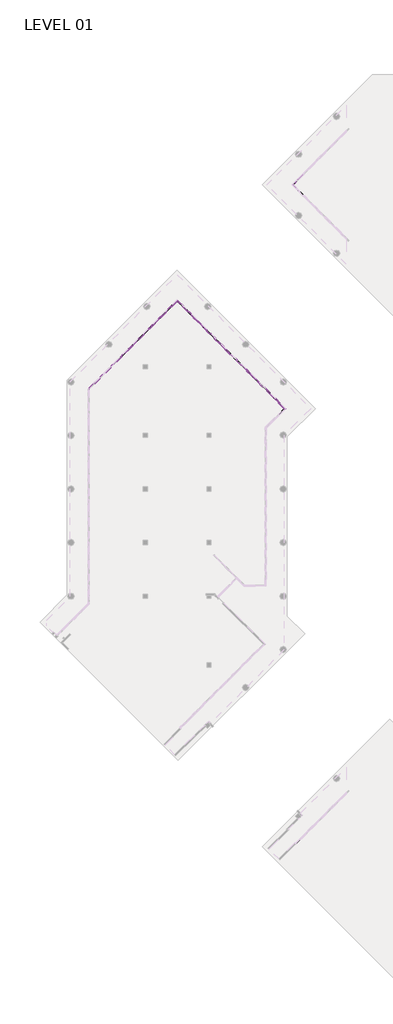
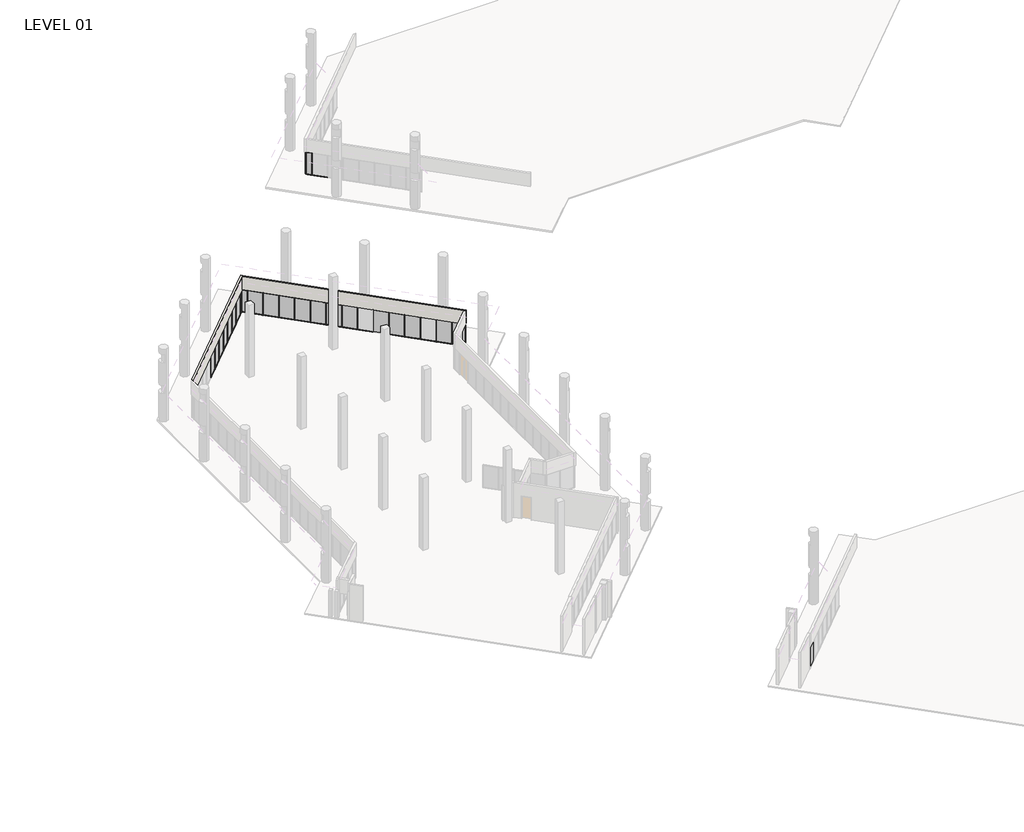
# One storey, part 5 of 24: 80 members, 25 plates, 2 walls.
"""IFC4 building model written with IfcOpenShell, lengths in millimetres."""

from ifc_helpers import new_model, si_unit, origin, place, context, project, spatial, faceted_brep, transform, mapped, element, save
from components import member_5247f267, member_79e7b9d8, member_b8d22739, member_e44af9ab, member_800970d4, member_1b18ecbc, member_57f2eb73, plate_46a4c48d, plate_4e8ae714, plate_d12b1ad5, plate_67294edd, plate_e0bd23ee, plate_474de82a, plate_87d7c655

model = new_model("IFC4")

# Units and contexts
model_context = context("Model", 3, world=origin())
ifc_project = project(units=[si_unit("LENGTHUNIT", "METRE", prefix="MILLI")], contexts=[model_context])

# Site, building, storey
site = spatial("IfcSite", under=ifc_project)
building = spatial("IfcBuilding", under=site)
storey = spatial("IfcBuildingStorey", under=building, Name="LEVEL 01", Elevation=0.0)

# Members
placement = place(None, origin())
member_shape = member_5247f267(model_context)
element("IfcMember", 1, ObjectType="Rectangular Mullion : 2\" x 4.5\" rectangular", at=placement, inside=storey, context=model_context, shape_type="MappedRepresentation", body=[
    mapped(member_shape, transform((-305.3287081, 104101.0755104, 0.0), x_axis=(0.0, 0.0, -1.0), y_axis=(-0.7071067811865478, -0.7071067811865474, 0.0), z_axis=(-0.7071067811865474, 0.7071067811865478, 0.0))),
])
element("IfcMember", 2, ObjectType="Rectangular Mullion : 2\" x 4.5\" rectangular", at=placement, inside=storey, context=model_context, shape_type="MappedRepresentation", body=[
    mapped(member_shape, transform((-305.5073808, 104982.5004268, 2590.8), x_axis=(0.0, 0.0, 1.0), y_axis=(-0.707106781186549, 0.7071067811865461, 0.0), z_axis=(-0.7071067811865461, -0.707106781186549, 0.0))),
])
member_2_shape = member_79e7b9d8(model_context)
element("IfcMember", 3, ObjectType="Rectangular Mullion : 2\" x 4.5\" rectangular", at=placement, inside=storey, context=model_context, shape_type="MappedRepresentation", body=[
    mapped(member_2_shape, transform((-710.2094781, 104577.7983294, 2590.8), x_axis=(0.0, 0.0, 1.0), y_axis=(-0.7071067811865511, 0.7071067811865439, 0.0), z_axis=(-0.7071067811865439, -0.7071067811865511, 0.0))),
])
element("IfcMember", 4, ObjectType="Rectangular Mullion : 2\" x 4.5\" rectangular", at=placement, inside=storey, context=model_context, shape_type="MappedRepresentation", body=[
    mapped(member_2_shape, transform((-341.4284052, 104946.5794023, 0.0), x_axis=(0.0, 0.0, -1.0), y_axis=(-0.7071067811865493, 0.7071067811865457, 0.0), z_axis=(0.7071067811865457, 0.7071067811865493, 0.0))),
])
member_3_shape = member_b8d22739(model_context)
element("IfcMember", 5, ObjectType="Rectangular Mullion : 2\" x 4.5\" rectangular", at=placement, inside=storey, context=model_context, shape_type="MappedRepresentation", body=[
    mapped(member_3_shape, transform((-710.2094781, 104505.9562804, 0.0), x_axis=(0.0, 0.0, -1.0), y_axis=(-0.7071067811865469, -0.7071067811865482, 0.0), z_axis=(-0.7071067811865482, 0.7071067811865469, 0.0))),
])
element("IfcMember", 6, ObjectType="Rectangular Mullion : 2\" x 4.5\" rectangular", at=placement, inside=storey, context=model_context, shape_type="MappedRepresentation", body=[
    mapped(member_3_shape, transform((-341.2497326, 104136.9965349, 2590.8), x_axis=(0.0, 0.0, 1.0), y_axis=(-0.7071067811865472, -0.7071067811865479, 0.0), z_axis=(0.7071067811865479, -0.7071067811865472, 0.0))),
])
member_4_shape = member_e44af9ab(model_context)
element("IfcMember", 7, ObjectType="Rectangular Mullion : 2\" x 4.5\" rectangular", at=placement, inside=storey, context=model_context, shape_type="MappedRepresentation", body=[
    mapped(member_4_shape, transform((-323.2892204, 104119.0360227, 0.0), x_axis=(0.7071067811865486, -0.7071067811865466, 0.0), y_axis=(-0.7071067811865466, -0.7071067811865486, 0.0), z_axis=(0.0, 0.0, -1.0))),
])
element("IfcMember", 8, ObjectType="Rectangular Mullion : 2\" x 4.5\" rectangular", at=placement, inside=storey, context=model_context, shape_type="MappedRepresentation", body=[
    mapped(member_4_shape, transform((-323.467893, 104964.5399145, 0.0), x_axis=(-0.7071067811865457, -0.7071067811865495, 0.0), y_axis=(-0.7071067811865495, 0.7071067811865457, 0.0), z_axis=(0.0, 0.0, -1.0))),
])
member_5_shape = member_800970d4(model_context)
element("IfcMember", 9, ObjectType="Rectangular Mullion : 2\" x 4.5\" rectangular", at=placement, inside=storey, context=model_context, shape_type="MappedRepresentation", body=[
    mapped(member_5_shape, transform((-746.1305026, 104541.8773049, 0.0), x_axis=(-0.7071067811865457, -0.7071067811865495, 0.0), y_axis=(-0.7071067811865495, 0.7071067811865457, 0.0), z_axis=(0.0, 0.0, -1.0))),
])
element("IfcMember", 10, ObjectType="Rectangular Mullion : 2\" x 4.5\" rectangular", at=placement, inside=storey, context=model_context, shape_type="MappedRepresentation", body=[
    mapped(member_5_shape, transform((-746.1305026, 104541.8773049, 2590.8), x_axis=(-0.7071067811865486, 0.7071067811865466, 0.0), y_axis=(-0.7071067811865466, -0.7071067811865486, 0.0), z_axis=(0.0, 0.0, 1.0))),
])
element("IfcMember", 11, ObjectType="Rectangular Mullion : 2\" x 4.5\" rectangular", at=placement, inside=storey, context=model_context, shape_type="MappedRepresentation", body=[
    mapped(member_shape, transform((-25181.9979799, 80106.0098276, 2590.8), x_axis=(0.0, 0.0, 1.0), y_axis=(0.7071067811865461, -0.707106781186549, 0.0), z_axis=(0.707106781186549, 0.7071067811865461, 0.0))),
])
element("IfcMember", 12, ObjectType="Rectangular Mullion : 2\" x 4.5\" rectangular", at=placement, inside=storey, context=model_context, shape_type="MappedRepresentation", body=[
    mapped(member_shape, transform((-24104.3672454, 81183.6405621, 2590.8), x_axis=(0.0, 0.0, 1.0), y_axis=(0.7071067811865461, -0.707106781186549, 0.0), z_axis=(0.707106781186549, 0.7071067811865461, 0.0))),
])
element("IfcMember", 13, ObjectType="Rectangular Mullion : 2\" x 4.5\" rectangular", at=placement, inside=storey, context=model_context, shape_type="MappedRepresentation", body=[
    mapped(member_shape, transform((-23026.7365109, 82261.2712966, 2590.8), x_axis=(0.0, 0.0, 1.0), y_axis=(0.7071067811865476, -0.7071067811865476, 0.0), z_axis=(0.7071067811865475, 0.7071067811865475, 0.0))),
])
element("IfcMember", 14, ObjectType="Rectangular Mullion : 2\" x 4.5\" rectangular", at=placement, inside=storey, context=model_context, shape_type="MappedRepresentation", body=[
    mapped(member_shape, transform((-20871.4750418, 84416.5327657, 2590.8), x_axis=(0.0, 0.0, 1.0), y_axis=(0.7071067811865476, -0.7071067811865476, 0.0), z_axis=(0.7071067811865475, 0.7071067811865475, 0.0))),
])
element("IfcMember", 15, ObjectType="Rectangular Mullion : 2\" x 4.5\" rectangular", at=placement, inside=storey, context=model_context, shape_type="MappedRepresentation", body=[
    mapped(member_shape, transform((-19793.8443073, 85494.1635002, 2590.8), x_axis=(0.0, 0.0, 1.0), y_axis=(0.7071067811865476, -0.7071067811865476, 0.0), z_axis=(0.7071067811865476, 0.7071067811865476, 0.0))),
])
element("IfcMember", 16, ObjectType="Rectangular Mullion : 2\" x 4.5\" rectangular", at=placement, inside=storey, context=model_context, shape_type="MappedRepresentation", body=[
    mapped(member_shape, transform((-15715.4482119, 86607.5365866, 2590.8), x_axis=(0.0, 0.0, 1.0), y_axis=(-0.7071067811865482, -0.7071067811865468, 0.0), z_axis=(0.7071067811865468, -0.7071067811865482, 0.0))),
])
element("IfcMember", 17, ObjectType="Rectangular Mullion : 2\" x 4.5\" rectangular", at=placement, inside=storey, context=model_context, shape_type="MappedRepresentation", body=[
    mapped(member_shape, transform((-13560.1867428, 84452.2751175, 2590.8), x_axis=(0.0, 0.0, 1.0), y_axis=(-0.7071067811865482, -0.7071067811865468, 0.0), z_axis=(0.7071067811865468, -0.7071067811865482, 0.0))),
])
element("IfcMember", 18, ObjectType="Rectangular Mullion : 2\" x 4.5\" rectangular", at=placement, inside=storey, context=model_context, shape_type="MappedRepresentation", body=[
    mapped(member_shape, transform((-11404.9252738, 82297.0136485, 2590.8), x_axis=(0.0, 0.0, 1.0), y_axis=(-0.7071067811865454, -0.7071067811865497, 0.0), z_axis=(0.7071067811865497, -0.7071067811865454, 0.0))),
])
element("IfcMember", 19, ObjectType="Rectangular Mullion : 2\" x 4.5\" rectangular", at=placement, inside=storey, context=model_context, shape_type="MappedRepresentation", body=[
    mapped(member_shape, transform((-7094.7596809, 77986.8480556, 2590.8), x_axis=(0.0, 0.0, 1.0), y_axis=(-0.7071067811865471, -0.7071067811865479, 0.0), z_axis=(0.7071067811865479, -0.7071067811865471, 0.0))),
])
element("IfcMember", 20, ObjectType="Rectangular Mullion : 2\" x 4.5\" rectangular", at=placement, inside=storey, context=model_context, shape_type="MappedRepresentation", body=[
    mapped(member_shape, transform((-3861.8674773, 74753.9558521, 2590.8), x_axis=(0.0, 0.0, 1.0), y_axis=(-0.7071067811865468, -0.7071067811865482, 0.0), z_axis=(0.7071067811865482, -0.7071067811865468, 0.0))),
])
element("IfcMember", 21, ObjectType="Rectangular Mullion : 2\" x 4.5\" rectangular", at=placement, inside=storey, context=model_context, shape_type="MappedRepresentation", body=[
    mapped(member_shape, transform((-2784.2367428, 73676.3251175, 2590.8), x_axis=(0.0, 0.0, 1.0), y_axis=(-0.7071067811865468, -0.7071067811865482, 0.0), z_axis=(0.7071067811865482, -0.7071067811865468, 0.0))),
])
element("IfcMember", 22, ObjectType="Rectangular Mullion : 2\" x 4.5\" rectangular", at=placement, inside=storey, context=model_context, shape_type="MappedRepresentation", body=[
    mapped(member_shape, transform((-18716.2135728, 86571.7942348, 2590.8), x_axis=(0.0, 0.0, 1.0), y_axis=(0.7071067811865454, -0.7071067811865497, 0.0), z_axis=(0.7071067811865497, 0.7071067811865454, 0.0))),
])
element("IfcMember", 23, ObjectType="Rectangular Mullion : 2\" x 4.5\" rectangular", at=placement, inside=storey, context=model_context, shape_type="MappedRepresentation", body=[
    mapped(member_shape, transform((-21949.1057764, 83338.9020312, 2590.8), x_axis=(0.0, 0.0, 1.0), y_axis=(0.7071067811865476, -0.7071067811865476, 0.0), z_axis=(0.7071067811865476, 0.7071067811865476, 0.0))),
])
element("IfcMember", 24, ObjectType="Rectangular Mullion : 2\" x 4.5\" rectangular", at=placement, inside=storey, context=model_context, shape_type="MappedRepresentation", body=[
    mapped(member_shape, transform((-17638.5828382, 87649.4249693, 2590.8), x_axis=(0.0, 0.0, 1.0), y_axis=(0.7071067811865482, -0.7071067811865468, 0.0), z_axis=(0.7071067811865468, 0.7071067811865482, 0.0))),
])
element("IfcMember", 25, ObjectType="Rectangular Mullion : 2\" x 4.5\" rectangular", at=placement, inside=storey, context=model_context, shape_type="MappedRepresentation", body=[
    mapped(member_shape, transform((-14637.8174773, 85529.9058521, 2590.8), x_axis=(0.0, 0.0, 1.0), y_axis=(-0.7071067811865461, -0.707106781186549, 0.0), z_axis=(0.707106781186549, -0.7071067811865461, 0.0))),
])
element("IfcMember", 26, ObjectType="Rectangular Mullion : 2\" x 4.5\" rectangular", at=placement, inside=storey, context=model_context, shape_type="MappedRepresentation", body=[
    mapped(member_shape, transform((-12482.5560083, 83374.644383, 2590.8), x_axis=(0.0, 0.0, 1.0), y_axis=(-0.7071067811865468, -0.7071067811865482, 0.0), z_axis=(0.7071067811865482, -0.7071067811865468, 0.0))),
])
element("IfcMember", 27, ObjectType="Rectangular Mullion : 2\" x 4.5\" rectangular", at=placement, inside=storey, context=model_context, shape_type="MappedRepresentation", body=[
    mapped(member_shape, transform((-10327.2945392, 81219.382914, 2590.8), x_axis=(0.0, 0.0, 1.0), y_axis=(-0.7071067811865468, -0.7071067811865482, 0.0), z_axis=(0.7071067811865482, -0.7071067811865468, 0.0))),
])
element("IfcMember", 28, ObjectType="Rectangular Mullion : 2\" x 4.5\" rectangular", at=placement, inside=storey, context=model_context, shape_type="MappedRepresentation", body=[
    mapped(member_shape, transform((-6017.1289464, 76909.2173211, 2590.8), x_axis=(0.0, 0.0, 1.0), y_axis=(-0.7071067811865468, -0.7071067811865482, 0.0), z_axis=(0.7071067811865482, -0.7071067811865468, 0.0))),
])
element("IfcMember", 29, ObjectType="Rectangular Mullion : 2\" x 4.5\" rectangular", at=placement, inside=storey, context=model_context, shape_type="MappedRepresentation", body=[
    mapped(member_shape, transform((-25146.0769555, 80141.9308521, 0.0), x_axis=(0.0, 0.0, -1.0), y_axis=(0.7071067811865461, -0.707106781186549, 0.0), z_axis=(-0.707106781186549, -0.7071067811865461, 0.0))),
])
element("IfcMember", 30, ObjectType="Rectangular Mullion : 2\" x 4.5\" rectangular", at=placement, inside=storey, context=model_context, shape_type="MappedRepresentation", body=[
    mapped(member_shape, transform((-24068.4462209, 81219.5615866, 0.0), x_axis=(0.0, 0.0, -1.0), y_axis=(0.707106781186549, -0.7071067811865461, 0.0), z_axis=(-0.7071067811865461, -0.707106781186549, 0.0))),
])
element("IfcMember", 31, ObjectType="Rectangular Mullion : 2\" x 4.5\" rectangular", at=placement, inside=storey, context=model_context, shape_type="MappedRepresentation", body=[
    mapped(member_shape, transform((-22990.8154864, 82297.1923211, 0.0), x_axis=(0.0, 0.0, -1.0), y_axis=(0.7071067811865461, -0.707106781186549, 0.0), z_axis=(-0.707106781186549, -0.7071067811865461, 0.0))),
])
element("IfcMember", 32, ObjectType="Rectangular Mullion : 2\" x 4.5\" rectangular", at=placement, inside=storey, context=model_context, shape_type="MappedRepresentation", body=[
    mapped(member_shape, transform((-20835.5540173, 84452.4537902, 0.0), x_axis=(0.0, 0.0, -1.0), y_axis=(0.7071067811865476, -0.7071067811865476, 0.0), z_axis=(-0.7071067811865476, -0.7071067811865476, 0.0))),
])
element("IfcMember", 33, ObjectType="Rectangular Mullion : 2\" x 4.5\" rectangular", at=placement, inside=storey, context=model_context, shape_type="MappedRepresentation", body=[
    mapped(member_shape, transform((-19757.9232828, 85530.0845247, 0.0), x_axis=(0.0, 0.0, -1.0), y_axis=(0.7071067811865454, -0.7071067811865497, 0.0), z_axis=(-0.7071067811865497, -0.7071067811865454, 0.0))),
])
element("IfcMember", 34, ObjectType="Rectangular Mullion : 2\" x 4.5\" rectangular", at=placement, inside=storey, context=model_context, shape_type="MappedRepresentation", body=[
    mapped(member_shape, transform((-15679.5271874, 86571.6155621, 0.0), x_axis=(0.0, 0.0, -1.0), y_axis=(-0.7071067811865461, -0.707106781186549, 0.0), z_axis=(-0.707106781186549, 0.7071067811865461, 0.0))),
])
element("IfcMember", 35, ObjectType="Rectangular Mullion : 2\" x 4.5\" rectangular", at=placement, inside=storey, context=model_context, shape_type="MappedRepresentation", body=[
    mapped(member_shape, transform((-13524.2657183, 84416.3540931, 0.0), x_axis=(0.0, 0.0, -1.0), y_axis=(-0.7071067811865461, -0.707106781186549, 0.0), z_axis=(-0.707106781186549, 0.7071067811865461, 0.0))),
])
element("IfcMember", 36, ObjectType="Rectangular Mullion : 2\" x 4.5\" rectangular", at=placement, inside=storey, context=model_context, shape_type="MappedRepresentation", body=[
    mapped(member_shape, transform((-11369.0042493, 82261.092624, 0.0), x_axis=(0.0, 0.0, -1.0), y_axis=(-0.7071067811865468, -0.7071067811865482, 0.0), z_axis=(-0.7071067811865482, 0.7071067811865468, 0.0))),
])
element("IfcMember", 37, ObjectType="Rectangular Mullion : 2\" x 4.5\" rectangular", at=placement, inside=storey, context=model_context, shape_type="MappedRepresentation", body=[
    mapped(member_shape, transform((-9214.1001255, 80106.1885002, 0.0), x_axis=(0.0, 0.0, -1.0), y_axis=(-0.7071067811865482, -0.7071067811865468, 0.0), z_axis=(-0.7071067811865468, 0.7071067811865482, 0.0))),
])
element("IfcMember", 38, ObjectType="Rectangular Mullion : 2\" x 4.5\" rectangular", at=placement, inside=storey, context=model_context, shape_type="MappedRepresentation", body=[
    mapped(member_shape, transform((-7058.8386564, 77950.9270312, 0.0), x_axis=(0.0, 0.0, -1.0), y_axis=(-0.7071067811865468, -0.7071067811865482, 0.0), z_axis=(-0.7071067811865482, 0.7071067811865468, 0.0))),
])
element("IfcMember", 39, ObjectType="Rectangular Mullion : 2\" x 4.5\" rectangular", at=placement, inside=storey, context=model_context, shape_type="MappedRepresentation", body=[
    mapped(member_shape, transform((-4903.5771874, 75795.6655621, 0.0), x_axis=(0.0, 0.0, -1.0), y_axis=(-0.7071067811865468, -0.7071067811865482, 0.0), z_axis=(-0.7071067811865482, 0.7071067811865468, 0.0))),
])
element("IfcMember", 40, ObjectType="Rectangular Mullion : 2\" x 4.5\" rectangular", at=placement, inside=storey, context=model_context, shape_type="MappedRepresentation", body=[
    mapped(member_shape, transform((-3825.9464529, 74718.0348276, 0.0), x_axis=(0.0, 0.0, -1.0), y_axis=(-0.7071067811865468, -0.7071067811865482, 0.0), z_axis=(-0.7071067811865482, 0.7071067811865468, 0.0))),
])
element("IfcMember", 41, ObjectType="Rectangular Mullion : 2\" x 4.5\" rectangular", at=placement, inside=storey, context=model_context, shape_type="MappedRepresentation", body=[
    mapped(member_shape, transform((-18680.2925483, 86607.7152592, 0.0), x_axis=(0.0, 0.0, -1.0), y_axis=(0.7071067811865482, -0.7071067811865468, 0.0), z_axis=(-0.7071067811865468, -0.7071067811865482, 0.0))),
])
element("IfcMember", 42, ObjectType="Rectangular Mullion : 2\" x 4.5\" rectangular", at=placement, inside=storey, context=model_context, shape_type="MappedRepresentation", body=[
    mapped(member_shape, transform((-16757.1579219, 87649.2462966, 0.0), x_axis=(0.0, 0.0, -1.0), y_axis=(-0.7071067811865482, -0.7071067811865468, 0.0), z_axis=(-0.7071067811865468, 0.7071067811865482, 0.0))),
])
element("IfcMember", 43, ObjectType="Rectangular Mullion : 2\" x 4.5\" rectangular", at=placement, inside=storey, context=model_context, shape_type="MappedRepresentation", body=[
    mapped(member_shape, transform((-21913.1847519, 83374.8230556, 0.0), x_axis=(0.0, 0.0, -1.0), y_axis=(0.7071067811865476, -0.7071067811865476, 0.0), z_axis=(-0.7071067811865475, -0.7071067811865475, 0.0))),
])
element("IfcMember", 44, ObjectType="Rectangular Mullion : 2\" x 4.5\" rectangular", at=placement, inside=storey, context=model_context, shape_type="MappedRepresentation", body=[
    mapped(member_shape, transform((-14601.8964529, 85493.9848276, 0.0), x_axis=(0.0, 0.0, -1.0), y_axis=(-0.7071067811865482, -0.7071067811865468, 0.0), z_axis=(-0.7071067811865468, 0.7071067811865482, 0.0))),
])
element("IfcMember", 45, ObjectType="Rectangular Mullion : 2\" x 4.5\" rectangular", at=placement, inside=storey, context=model_context, shape_type="MappedRepresentation", body=[
    mapped(member_shape, transform((-12446.6349838, 83338.7233585, 0.0), x_axis=(0.0, 0.0, -1.0), y_axis=(-0.7071067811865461, -0.707106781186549, 0.0), z_axis=(-0.707106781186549, 0.7071067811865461, 0.0))),
])
element("IfcMember", 46, ObjectType="Rectangular Mullion : 2\" x 4.5\" rectangular", at=placement, inside=storey, context=model_context, shape_type="MappedRepresentation", body=[
    mapped(member_shape, transform((-5981.2079219, 76873.2962966, 0.0), x_axis=(0.0, 0.0, -1.0), y_axis=(-0.7071067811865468, -0.7071067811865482, 0.0), z_axis=(-0.7071067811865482, 0.7071067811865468, 0.0))),
])
element("IfcMember", 47, ObjectType="Rectangular Mullion : 2\" x 4.5\" rectangular", at=placement, inside=storey, context=model_context, shape_type="MappedRepresentation", body=[
    mapped(member_4_shape, transform((-25164.0374677, 80123.9703398, 0.0), x_axis=(0.7071067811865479, 0.7071067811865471, 0.0), y_axis=(0.7071067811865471, -0.7071067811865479, 0.0), z_axis=(0.0, 0.0, -1.0))),
])
element("IfcMember", 48, ObjectType="Rectangular Mullion : 2\" x 4.5\" rectangular", at=placement, inside=storey, context=model_context, shape_type="MappedRepresentation", body=[
    mapped(member_4_shape, transform((-24086.4067332, 81201.6010744, 0.0), x_axis=(0.7071067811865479, 0.7071067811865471, 0.0), y_axis=(0.7071067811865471, -0.7071067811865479, 0.0), z_axis=(0.0, 0.0, -1.0))),
])
element("IfcMember", 49, ObjectType="Rectangular Mullion : 2\" x 4.5\" rectangular", at=placement, inside=storey, context=model_context, shape_type="MappedRepresentation", body=[
    mapped(member_4_shape, transform((-23008.7759986, 82279.2318089, 0.0), x_axis=(0.7071067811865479, 0.7071067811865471, 0.0), y_axis=(0.7071067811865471, -0.7071067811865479, 0.0), z_axis=(0.0, 0.0, -1.0))),
])
element("IfcMember", 50, ObjectType="Rectangular Mullion : 2\" x 4.5\" rectangular", at=placement, inside=storey, context=model_context, shape_type="MappedRepresentation", body=[
    mapped(member_4_shape, transform((-20853.5145296, 84434.4932779, 0.0), x_axis=(0.7071067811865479, 0.7071067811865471, 0.0), y_axis=(0.7071067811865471, -0.7071067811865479, 0.0), z_axis=(0.0, 0.0, -1.0))),
])
element("IfcMember", 51, ObjectType="Rectangular Mullion : 2\" x 4.5\" rectangular", at=placement, inside=storey, context=model_context, shape_type="MappedRepresentation", body=[
    mapped(member_4_shape, transform((-19775.8837951, 85512.1240125, 0.0), x_axis=(0.7071067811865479, 0.7071067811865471, 0.0), y_axis=(0.7071067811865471, -0.7071067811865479, 0.0), z_axis=(0.0, 0.0, -1.0))),
])
element("IfcMember", 52, ObjectType="Rectangular Mullion : 2\" x 4.5\" rectangular", at=placement, inside=storey, context=model_context, shape_type="MappedRepresentation", body=[
    mapped(member_4_shape, transform((-15697.4876996, 86589.5760744, 0.0), x_axis=(0.707106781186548, -0.707106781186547, 0.0), y_axis=(-0.707106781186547, -0.707106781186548, 0.0), z_axis=(0.0, 0.0, -1.0))),
])
element("IfcMember", 53, ObjectType="Rectangular Mullion : 2\" x 4.5\" rectangular", at=placement, inside=storey, context=model_context, shape_type="MappedRepresentation", body=[
    mapped(member_4_shape, transform((-13542.2262306, 84434.3146053, 0.0), x_axis=(0.707106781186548, -0.707106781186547, 0.0), y_axis=(-0.707106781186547, -0.707106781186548, 0.0), z_axis=(0.0, 0.0, -1.0))),
])
element("IfcMember", 54, ObjectType="Rectangular Mullion : 2\" x 4.5\" rectangular", at=placement, inside=storey, context=model_context, shape_type="MappedRepresentation", body=[
    mapped(member_4_shape, transform((-11386.9647615, 82279.0531362, 0.0), x_axis=(0.707106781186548, -0.707106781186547, 0.0), y_axis=(-0.707106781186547, -0.707106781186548, 0.0), z_axis=(0.0, 0.0, -1.0))),
])
element("IfcMember", 55, ObjectType="Rectangular Mullion : 2\" x 4.5\" rectangular", at=placement, inside=storey, context=model_context, shape_type="MappedRepresentation", body=[
    mapped(member_4_shape, transform((-9232.0606377, 80124.1490125, 0.0), x_axis=(0.707106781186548, -0.707106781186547, 0.0), y_axis=(-0.707106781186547, -0.707106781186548, 0.0), z_axis=(0.0, 0.0, -1.0))),
])
element("IfcMember", 56, ObjectType="Rectangular Mullion : 2\" x 4.5\" rectangular", at=placement, inside=storey, context=model_context, shape_type="MappedRepresentation", body=[
    mapped(member_4_shape, transform((-7076.7991687, 77968.8875434, 0.0), x_axis=(0.707106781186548, -0.707106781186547, 0.0), y_axis=(-0.707106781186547, -0.707106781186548, 0.0), z_axis=(0.0, 0.0, -1.0))),
])
element("IfcMember", 57, ObjectType="Rectangular Mullion : 2\" x 4.5\" rectangular", at=placement, inside=storey, context=model_context, shape_type="MappedRepresentation", body=[
    mapped(member_4_shape, transform((-4921.5376996, 75813.6260744, 0.0), x_axis=(0.707106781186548, -0.707106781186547, 0.0), y_axis=(-0.707106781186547, -0.707106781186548, 0.0), z_axis=(0.0, 0.0, -1.0))),
])
element("IfcMember", 58, ObjectType="Rectangular Mullion : 2\" x 4.5\" rectangular", at=placement, inside=storey, context=model_context, shape_type="MappedRepresentation", body=[
    mapped(member_4_shape, transform((-3843.9069651, 74735.9953398, 0.0), x_axis=(0.707106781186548, -0.707106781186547, 0.0), y_axis=(-0.707106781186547, -0.707106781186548, 0.0), z_axis=(0.0, 0.0, -1.0))),
])
element("IfcMember", 59, ObjectType="Rectangular Mullion : 2\" x 4.5\" rectangular", at=placement, inside=storey, context=model_context, shape_type="MappedRepresentation", body=[
    mapped(member_4_shape, transform((-2766.2762306, 73658.3646053, 0.0), x_axis=(0.707106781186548, -0.707106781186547, 0.0), y_axis=(-0.707106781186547, -0.707106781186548, 0.0), z_axis=(0.0, 0.0, -1.0))),
])
element("IfcMember", 60, ObjectType="Rectangular Mullion : 2\" x 4.5\" rectangular", at=placement, inside=storey, context=model_context, shape_type="MappedRepresentation", body=[
    mapped(member_4_shape, transform((-18698.2530605, 86589.754747, 0.0), x_axis=(0.7071067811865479, 0.7071067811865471, 0.0), y_axis=(0.7071067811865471, -0.7071067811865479, 0.0), z_axis=(0.0, 0.0, -1.0))),
])
element("IfcMember", 61, ObjectType="Rectangular Mullion : 2\" x 4.5\" rectangular", at=placement, inside=storey, context=model_context, shape_type="MappedRepresentation", body=[
    mapped(member_4_shape, transform((-16775.1184342, 87667.2068089, 0.0), x_axis=(0.707106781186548, -0.707106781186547, 0.0), y_axis=(-0.707106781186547, -0.707106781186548, 0.0), z_axis=(0.0, 0.0, -1.0))),
])
element("IfcMember", 62, ObjectType="Rectangular Mullion : 2\" x 4.5\" rectangular", at=placement, inside=storey, context=model_context, shape_type="MappedRepresentation", body=[
    mapped(member_4_shape, transform((-21931.1452641, 83356.8625434, 0.0), x_axis=(0.7071067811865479, 0.7071067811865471, 0.0), y_axis=(0.7071067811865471, -0.7071067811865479, 0.0), z_axis=(0.0, 0.0, -1.0))),
])
element("IfcMember", 63, ObjectType="Rectangular Mullion : 2\" x 4.5\" rectangular", at=placement, inside=storey, context=model_context, shape_type="MappedRepresentation", body=[
    mapped(member_4_shape, transform((-17620.622326, 87667.3854815, 0.0), x_axis=(0.7071067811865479, 0.7071067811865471, 0.0), y_axis=(0.7071067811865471, -0.7071067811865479, 0.0), z_axis=(0.0, 0.0, -1.0))),
])
element("IfcMember", 64, ObjectType="Rectangular Mullion : 2\" x 4.5\" rectangular", at=placement, inside=storey, context=model_context, shape_type="MappedRepresentation", body=[
    mapped(member_4_shape, transform((-14619.8569651, 85511.9453398, 0.0), x_axis=(0.707106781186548, -0.707106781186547, 0.0), y_axis=(-0.707106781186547, -0.707106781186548, 0.0), z_axis=(0.0, 0.0, -1.0))),
])
element("IfcMember", 65, ObjectType="Rectangular Mullion : 2\" x 4.5\" rectangular", at=placement, inside=storey, context=model_context, shape_type="MappedRepresentation", body=[
    mapped(member_4_shape, transform((-12464.595496, 83356.6838708, 0.0), x_axis=(0.707106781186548, -0.707106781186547, 0.0), y_axis=(-0.707106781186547, -0.707106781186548, 0.0), z_axis=(0.0, 0.0, -1.0))),
])
element("IfcMember", 66, ObjectType="Rectangular Mullion : 2\" x 4.5\" rectangular", at=placement, inside=storey, context=model_context, shape_type="MappedRepresentation", body=[
    mapped(member_4_shape, transform((-10309.334027, 81201.4224017, 0.0), x_axis=(0.707106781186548, -0.707106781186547, 0.0), y_axis=(-0.707106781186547, -0.707106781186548, 0.0), z_axis=(0.0, 0.0, -1.0))),
])
element("IfcMember", 67, ObjectType="Rectangular Mullion : 2\" x 4.5\" rectangular", at=placement, inside=storey, context=model_context, shape_type="MappedRepresentation", body=[
    mapped(member_4_shape, transform((-5999.1684342, 76891.2568089, 0.0), x_axis=(0.707106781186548, -0.707106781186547, 0.0), y_axis=(-0.707106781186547, -0.707106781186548, 0.0), z_axis=(0.0, 0.0, -1.0))),
])
element("IfcMember", 68, ObjectType="Rectangular Mullion : 2\" x 4.5\" rectangular", at=placement, inside=storey, context=model_context, shape_type="MappedRepresentation", body=[
    mapped(member_5_shape, transform((-17197.9597164, 88090.0480911, 0.0), x_axis=(0.7071067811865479, 0.7071067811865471, 0.0), y_axis=(0.7071067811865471, -0.7071067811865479, 0.0), z_axis=(0.0, 0.0, -1.0))),
])
element("IfcMember", 69, ObjectType="Rectangular Mullion : 2\" x 4.5\" rectangular", at=placement, inside=storey, context=model_context, shape_type="MappedRepresentation", body=[
    mapped(member_5_shape, transform((-1865.8792138, 72757.9675885, 0.0), x_axis=(0.707106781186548, -0.707106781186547, 0.0), y_axis=(-0.707106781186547, -0.707106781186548, 0.0), z_axis=(0.0, 0.0, -1.0))),
])
element("IfcMember", 70, ObjectType="Rectangular Mullion : 2\" x 4.5\" rectangular", at=placement, inside=storey, context=model_context, shape_type="MappedRepresentation", body=[
    mapped(member_5_shape, transform((-17197.9597164, 88090.0480911, 2590.8), x_axis=(-0.707106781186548, 0.707106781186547, 0.0), y_axis=(-0.707106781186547, -0.707106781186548, 0.0), z_axis=(0.0, 0.0, 1.0))),
])
element("IfcMember", 71, ObjectType="Rectangular Mullion : 2\" x 4.5\" rectangular", at=placement, inside=storey, context=model_context, shape_type="MappedRepresentation", body=[
    mapped(member_5_shape, transform((-1865.8792138, 72757.9675885, 2590.8), x_axis=(0.7071067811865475, 0.7071067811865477, 0.0), y_axis=(-0.7071067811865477, 0.7071067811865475, 0.0), z_axis=(0.0, 0.0, 1.0))),
])
element("IfcMember", 72, ObjectType="Rectangular Mullion : 2\" x 4.5\" rectangular", at=placement, inside=storey, context=model_context, shape_type="MappedRepresentation", body=[
    mapped(member_2_shape, transform((-17233.8807409, 88054.1270666, 2590.8), x_axis=(0.0, 0.0, 1.0), y_axis=(0.7071067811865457, -0.7071067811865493, 0.0), z_axis=(0.7071067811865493, 0.7071067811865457, 0.0))),
])
element("IfcMember", 73, ObjectType="Rectangular Mullion : 2\" x 4.5\" rectangular", at=placement, inside=storey, context=model_context, shape_type="MappedRepresentation", body=[
    mapped(member_2_shape, transform((-17602.6618138, 87685.3459938, 0.0), x_axis=(0.0, 0.0, -1.0), y_axis=(0.7071067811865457, -0.7071067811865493, 0.0), z_axis=(-0.7071067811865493, -0.7071067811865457, 0.0))),
])
member_6_shape = member_1b18ecbc(model_context)
element("IfcMember", 74, ObjectType="Rectangular Mullion : 2\" x 4.5\" rectangular", at=placement, inside=storey, context=model_context, shape_type="MappedRepresentation", body=[
    mapped(member_6_shape, transform((-1901.8002383, 72793.888613, 2590.8), x_axis=(0.0, 0.0, 1.0), y_axis=(-0.7071067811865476, -0.7071067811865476, 0.0), z_axis=(0.7071067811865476, -0.7071067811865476, 0.0))),
])
element("IfcMember", 75, ObjectType="Rectangular Mullion : 2\" x 4.5\" rectangular", at=placement, inside=storey, context=model_context, shape_type="MappedRepresentation", body=[
    mapped(member_3_shape, transform((-17162.0386919, 88054.1270666, 0.0), x_axis=(0.0, 0.0, -1.0), y_axis=(-0.7071067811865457, -0.7071067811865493, 0.0), z_axis=(-0.7071067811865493, 0.7071067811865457, 0.0))),
])
element("IfcMember", 76, ObjectType="Rectangular Mullion : 2\" x 4.5\" rectangular", at=placement, inside=storey, context=model_context, shape_type="MappedRepresentation", body=[
    mapped(member_6_shape, transform((-1901.8002383, 72722.046564, 0.0), x_axis=(0.0, 0.0, -1.0), y_axis=(-0.7071067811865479, 0.7071067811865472, 0.0), z_axis=(0.7071067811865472, 0.7071067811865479, 0.0))),
])
element("IfcMember", 77, ObjectType="Rectangular Mullion : 2\" x 4.5\" rectangular", at=placement, inside=storey, context=model_context, shape_type="MappedRepresentation", body=[
    mapped(member_6_shape, transform((-2748.3157183, 73640.4040931, 0.0), x_axis=(0.0, 0.0, -1.0), y_axis=(-0.7071067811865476, -0.7071067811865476, 0.0), z_axis=(-0.7071067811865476, 0.7071067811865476, 0.0))),
])
element("IfcMember", 78, ObjectType="Rectangular Mullion : 2\" x 4.5\" rectangular", at=placement, inside=storey, context=model_context, shape_type="MappedRepresentation", body=[
    mapped(member_3_shape, transform((-16793.0789464, 87685.1673211, 2590.8), x_axis=(0.0, 0.0, 1.0), y_axis=(-0.7071067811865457, -0.7071067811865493, 0.0), z_axis=(0.7071067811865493, -0.7071067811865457, 0.0))),
])
member_7_shape = member_57f2eb73(model_context)
element("IfcMember", 79, ObjectType="Rectangular Mullion : 2\" x 4.5\" rectangular", at=placement, inside=storey, context=model_context, shape_type="MappedRepresentation", body=[
    mapped(member_7_shape, transform((-9250.02115, 80142.1095247, 2590.8), x_axis=(0.0, 0.0, 1.0), y_axis=(-0.7071067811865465, -0.7071067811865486, 0.0), z_axis=(0.7071067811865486, -0.7071067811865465, 0.0))),
])
element("IfcMember", 80, ObjectType="Rectangular Mullion : 2\" x 4.5\" rectangular", at=placement, inside=storey, context=model_context, shape_type="MappedRepresentation", body=[
    mapped(member_7_shape, transform((-10291.3735147, 81183.4618895, 0.0), x_axis=(0.0, 0.0, -1.0), y_axis=(-0.7071067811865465, -0.7071067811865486, 0.0), z_axis=(-0.7071067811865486, 0.7071067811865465, 0.0))),
])

# Plates
plate_shape = plate_46a4c48d(model_context)
element("IfcPlate", 81, ObjectType="System Panel : 1/4\" Glass", at=placement, inside=storey, context=model_context, shape_type="MappedRepresentation", body=[
    mapped(plate_shape, transform((-525.8189417, 104762.1888658, 50.8), x_axis=(-0.7071067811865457, -0.7071067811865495, 0.0), y_axis=(0.7071067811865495, -0.7071067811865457, 0.0), z_axis=(0.0, 0.0, 1.0))),
])
plate_2_shape = plate_4e8ae714(model_context)
element("IfcPlate", 82, ObjectType="System Panel : 1/4\" Glass", at=placement, inside=storey, context=model_context, shape_type="MappedRepresentation", body=[
    mapped(plate_2_shape, transform((-525.7296054, 104321.4764077, 50.8), x_axis=(0.7071067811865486, -0.7071067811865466, 0.0), y_axis=(0.7071067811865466, 0.7071067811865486, 0.0), z_axis=(0.0, 0.0, 1.0))),
])
plate_3_shape = plate_d12b1ad5(model_context)
element("IfcPlate", 83, ObjectType="System Panel : 1/4\" Glass", at=placement, inside=storey, context=model_context, shape_type="MappedRepresentation", body=[
    mapped(plate_3_shape, transform((224.4693987, 11464.6577734, 50.8), x_axis=(0.7071067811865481, 0.7071067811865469, 0.0), y_axis=(-0.7071067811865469, 0.7071067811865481, 0.0), z_axis=(0.0, 0.0, 1.0))),
])
plate_4_shape = plate_67294edd(model_context)
element("IfcPlate", 84, ObjectType="System Panel : 1/4\" Glass", at=placement, inside=storey, context=model_context, shape_type="MappedRepresentation", body=[
    mapped(plate_4_shape, transform((-24625.2221004, 80662.7857071, 50.8), x_axis=(0.7071067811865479, 0.7071067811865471, 0.0), y_axis=(-0.7071067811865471, 0.7071067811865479, 0.0), z_axis=(0.0, 0.0, 1.0))),
])
element("IfcPlate", 85, ObjectType="System Panel : 1/4\" Glass", at=placement, inside=storey, context=model_context, shape_type="MappedRepresentation", body=[
    mapped(plate_4_shape, transform((-23547.5913659, 81740.4164416, 50.8), x_axis=(0.7071067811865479, 0.7071067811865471, 0.0), y_axis=(-0.7071067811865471, 0.7071067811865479, 0.0), z_axis=(0.0, 0.0, 1.0))),
])
element("IfcPlate", 86, ObjectType="System Panel : 1/4\" Glass", at=placement, inside=storey, context=model_context, shape_type="MappedRepresentation", body=[
    mapped(plate_4_shape, transform((-22469.9606314, 82818.0471761, 50.8), x_axis=(0.7071067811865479, 0.7071067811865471, 0.0), y_axis=(-0.7071067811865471, 0.7071067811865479, 0.0), z_axis=(0.0, 0.0, 1.0))),
])
element("IfcPlate", 87, ObjectType="System Panel : 1/4\" Glass", at=placement, inside=storey, context=model_context, shape_type="MappedRepresentation", body=[
    mapped(plate_4_shape, transform((-20314.6991623, 84973.3086452, 50.8), x_axis=(0.7071067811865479, 0.7071067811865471, 0.0), y_axis=(-0.7071067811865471, 0.7071067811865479, 0.0), z_axis=(0.0, 0.0, 1.0))),
])
element("IfcPlate", 88, ObjectType="System Panel : 1/4\" Glass", at=placement, inside=storey, context=model_context, shape_type="MappedRepresentation", body=[
    mapped(plate_4_shape, transform((-19237.0684278, 86050.9393797, 50.8), x_axis=(0.7071067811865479, 0.7071067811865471, 0.0), y_axis=(-0.7071067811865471, 0.7071067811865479, 0.0), z_axis=(0.0, 0.0, 1.0))),
])
element("IfcPlate", 89, ObjectType="System Panel : 1/4\" Glass", at=placement, inside=storey, context=model_context, shape_type="MappedRepresentation", body=[
    mapped(plate_4_shape, transform((-15158.6723324, 86050.7607071, 50.8), x_axis=(0.707106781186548, -0.707106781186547, 0.0), y_axis=(0.707106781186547, 0.707106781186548, 0.0), z_axis=(0.0, 0.0, 1.0))),
])
element("IfcPlate", 90, ObjectType="System Panel : 1/4\" Glass", at=placement, inside=storey, context=model_context, shape_type="MappedRepresentation", body=[
    mapped(plate_4_shape, transform((-13003.4108633, 83895.499238, 50.8), x_axis=(0.707106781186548, -0.707106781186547, 0.0), y_axis=(0.707106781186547, 0.707106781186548, 0.0), z_axis=(0.0, 0.0, 1.0))),
])
element("IfcPlate", 91, ObjectType="System Panel : 1/4\" Glass", at=placement, inside=storey, context=model_context, shape_type="MappedRepresentation", body=[
    mapped(plate_4_shape, transform((-10848.1493943, 81740.237769, 50.8), x_axis=(0.707106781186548, -0.707106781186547, 0.0), y_axis=(0.707106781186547, 0.707106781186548, 0.0), z_axis=(0.0, 0.0, 1.0))),
])
element("IfcPlate", 92, ObjectType="System Panel : 1/4\" Glass", at=placement, inside=storey, context=model_context, shape_type="MappedRepresentation", body=[
    mapped(plate_4_shape, transform((-6537.9838014, 77430.0721761, 50.8), x_axis=(0.707106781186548, -0.707106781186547, 0.0), y_axis=(0.707106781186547, 0.707106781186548, 0.0), z_axis=(0.0, 0.0, 1.0))),
])
element("IfcPlate", 93, ObjectType="System Panel : 1/4\" Glass", at=placement, inside=storey, context=model_context, shape_type="MappedRepresentation", body=[
    mapped(plate_4_shape, transform((-3305.0915978, 74197.1799726, 50.8), x_axis=(0.707106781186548, -0.707106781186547, 0.0), y_axis=(0.707106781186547, 0.707106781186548, 0.0), z_axis=(0.0, 0.0, 1.0))),
])
element("IfcPlate", 94, ObjectType="System Panel : 1/4\" Glass", at=placement, inside=storey, context=model_context, shape_type="MappedRepresentation", body=[
    mapped(plate_4_shape, transform((-18159.4376933, 87128.5701143, 50.8), x_axis=(0.7071067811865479, 0.7071067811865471, 0.0), y_axis=(-0.7071067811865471, 0.7071067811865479, 0.0), z_axis=(0.0, 0.0, 1.0))),
])
element("IfcPlate", 95, ObjectType="System Panel : 1/4\" Glass", at=placement, inside=storey, context=model_context, shape_type="MappedRepresentation", body=[
    mapped(plate_4_shape, transform((-16236.3030669, 87128.3914416, 50.8), x_axis=(0.707106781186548, -0.707106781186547, 0.0), y_axis=(0.707106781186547, 0.707106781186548, 0.0), z_axis=(0.0, 0.0, 1.0))),
])
element("IfcPlate", 96, ObjectType="System Panel : 1/4\" Glass", at=placement, inside=storey, context=model_context, shape_type="MappedRepresentation", body=[
    mapped(plate_4_shape, transform((-21392.3298969, 83895.6779107, 50.8), x_axis=(0.7071067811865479, 0.7071067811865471, 0.0), y_axis=(-0.7071067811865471, 0.7071067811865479, 0.0), z_axis=(0.0, 0.0, 1.0))),
])
element("IfcPlate", 97, ObjectType="System Panel : 1/4\" Glass", at=placement, inside=storey, context=model_context, shape_type="MappedRepresentation", body=[
    mapped(plate_4_shape, transform((-14081.0415978, 84973.1299726, 50.8), x_axis=(0.707106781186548, -0.707106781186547, 0.0), y_axis=(0.707106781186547, 0.707106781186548, 0.0), z_axis=(0.0, 0.0, 1.0))),
])
element("IfcPlate", 98, ObjectType="System Panel : 1/4\" Glass", at=placement, inside=storey, context=model_context, shape_type="MappedRepresentation", body=[
    mapped(plate_4_shape, transform((-11925.7801288, 82817.8685035, 50.8), x_axis=(0.707106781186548, -0.707106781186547, 0.0), y_axis=(0.707106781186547, 0.707106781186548, 0.0), z_axis=(0.0, 0.0, 1.0))),
])
element("IfcPlate", 99, ObjectType="System Panel : 1/4\" Glass", at=placement, inside=storey, context=model_context, shape_type="MappedRepresentation", body=[
    mapped(plate_4_shape, transform((-7615.6145359, 78507.7029107, 50.8), x_axis=(0.707106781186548, -0.707106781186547, 0.0), y_axis=(0.707106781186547, 0.707106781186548, 0.0), z_axis=(0.0, 0.0, 1.0))),
])
element("IfcPlate", 100, ObjectType="System Panel : 1/4\" Glass", at=placement, inside=storey, context=model_context, shape_type="MappedRepresentation", body=[
    mapped(plate_4_shape, transform((-5460.3530669, 76352.4414416, 50.8), x_axis=(0.707106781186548, -0.707106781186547, 0.0), y_axis=(0.707106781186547, 0.707106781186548, 0.0), z_axis=(0.0, 0.0, 1.0))),
])
element("IfcPlate", 101, ObjectType="System Panel : 1/4\" Glass", at=placement, inside=storey, context=model_context, shape_type="MappedRepresentation", body=[
    mapped(plate_2_shape, transform((-16977.5588192, 87869.6471939, 50.8), x_axis=(0.707106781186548, -0.707106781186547, 0.0), y_axis=(0.707106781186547, 0.707106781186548, 0.0), z_axis=(0.0, 0.0, 1.0))),
])
plate_5_shape = plate_e0bd23ee(model_context)
element("IfcPlate", 102, ObjectType="System Panel : 1/4\" Glass", at=placement, inside=storey, context=model_context, shape_type="MappedRepresentation", body=[
    mapped(plate_5_shape, transform((-2325.0560328, 72298.7907695, 50.8), x_axis=(-0.7071067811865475, -0.7071067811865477, 0.0), y_axis=(0.7071067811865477, -0.7071067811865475, 0.0), z_axis=(0.0, 0.0, 1.0))),
])
plate_6_shape = plate_474de82a(model_context)
element("IfcPlate", 103, ObjectType="System Panel : 1/4\" Glass", at=placement, inside=storey, context=model_context, shape_type="MappedRepresentation", body=[
    mapped(plate_6_shape, transform((-2325.0579783, 73217.146353, 50.8), x_axis=(0.707106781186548, -0.707106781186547, 0.0), y_axis=(0.707106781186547, 0.707106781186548, 0.0), z_axis=(0.0, 0.0, 1.0))),
])
element("IfcPlate", 104, ObjectType="System Panel : 1/4\" Glass", at=placement, inside=storey, context=model_context, shape_type="MappedRepresentation", body=[
    mapped(plate_shape, transform((-17418.2712773, 87869.7365302, 50.8), x_axis=(0.7071067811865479, 0.7071067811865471, 0.0), y_axis=(-0.7071067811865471, 0.7071067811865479, 0.0), z_axis=(0.0, 0.0, 1.0))),
])
plate_7_shape = plate_87d7c655(model_context)
element("IfcPlate", 105, ObjectType="System Panel : 1/4\" Glass", at=placement, inside=storey, context=model_context, shape_type="MappedRepresentation", body=[
    mapped(plate_7_shape, transform((-9770.6973324, 80662.7857071, 50.8), x_axis=(0.707106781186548, -0.707106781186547, 0.0), y_axis=(0.707106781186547, 0.707106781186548, 0.0), z_axis=(0.0, 0.0, 1.0))),
])

# Walls
element("IfcWall", 106, ObjectType="8\" Existing Wall", at=placement, inside=storey, context=model_context, shape_type="Brep", body=[
    faceted_brep([(-29691.5847164, 75452.7389932, 2590.8), (-17197.9597164, 87946.3639932, 2590.8), (-17054.2756185, 88090.0480911, 2590.8), (-17054.2756185, 88090.0480911, 4089.4), (-17197.9597164, 87946.3639932, 4089.4), (-29691.5847164, 75452.7389932, 4089.4), (-29691.5847164, 75740.1071891, 2590.8), (-29691.5847164, 75740.1071891, 4089.4), (-17197.9597164, 88233.7321891, 4089.4), (-17197.9597164, 88233.7321891, 2590.8)], [[[0, 1, 2, 3, 4, 5]], [[6, 7, 8, 9]], [[2, 1, 0, 6, 9]], [[5, 4, 3, 8, 7]], [[0, 5, 7, 6]], [[3, 2, 9, 8]]]),
])
element("IfcWall", 107, ObjectType="8\" Existing Wall", at=placement, inside=storey, context=model_context, shape_type="Brep", body=[
    faceted_brep([(-17197.9597164, 87946.3639932, 2590.8), (-2009.5633117, 72757.9675885, 2590.8), (-1865.8792138, 72614.2834906, 2590.8), (-1865.8792138, 72614.2834906, 4089.4), (-2009.5633117, 72757.9675885, 4089.4), (-17197.9597164, 87946.3639932, 4089.4), (-17054.2756185, 88090.0480911, 2590.8), (-17054.2756185, 88090.0480911, 4089.4), (-1722.1951159, 72757.9675885, 4089.4), (-1722.1951159, 72757.9675885, 2590.8)], [[[0, 1, 2, 3, 4, 5]], [[6, 7, 8, 9]], [[2, 1, 0, 6, 9]], [[5, 4, 3, 8, 7]], [[0, 5, 7, 6]], [[3, 2, 9, 8]]]),
])

save(model, "model.ifc")
